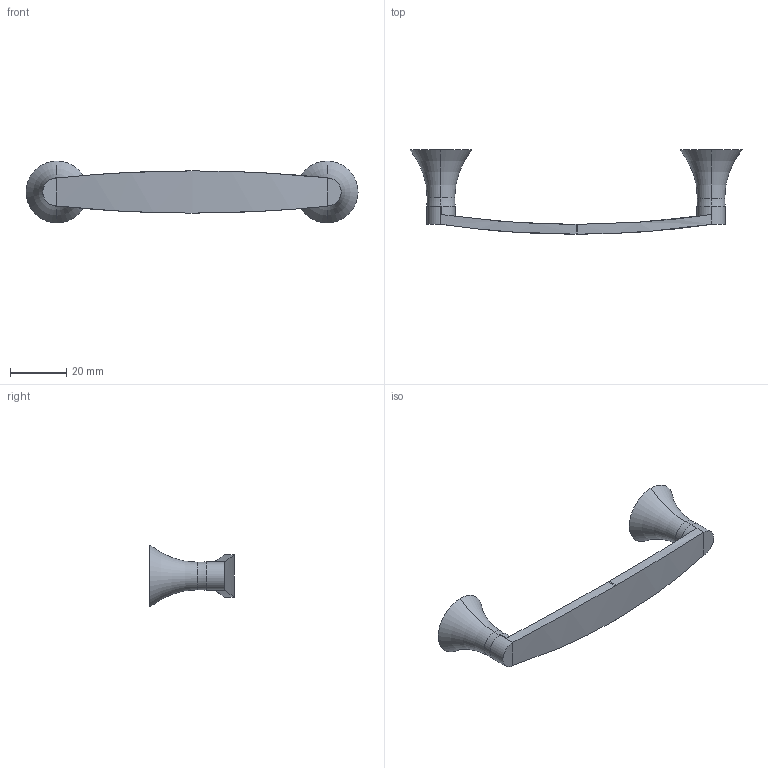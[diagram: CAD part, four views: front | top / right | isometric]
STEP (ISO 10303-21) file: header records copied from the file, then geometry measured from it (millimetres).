
FILE_DESCRIPTION( ( '' ), '1' );
FILE_NAME( 'D:/1.AUTOCAD EXPORT/Group 10/sheet_10_1/115281.stp', '2013-10-21T08:23:50', ( '' ), ( '' ), ' ', ' ', ' ' );
FILE_SCHEMA( ( 'automotive_design' ) );
Length unit declared in the file: millimetre
Products named in the file (1): 1
Bounding box: 118 x 30 x 22 mm (x, y, z)
Volume: 10833.4 mm3; surface area: 6316.8 mm2
Topology: 1 solids, 1 shells, 33 faces, 73 edges, 44 vertices
Faces by surface type: cylinder 14, plane 11, torus 8
Entity records: 1906 total; most frequent: CARTESIAN_POINT 290, DIRECTION 170, STYLED_ITEM 151, PRESENTATION_STYLE_ASSIGNMENT 151, COLOUR_RGB 151, ORIENTED_EDGE 146, EDGE_CURVE 73, AXIS2_PLACEMENT_3D 73
